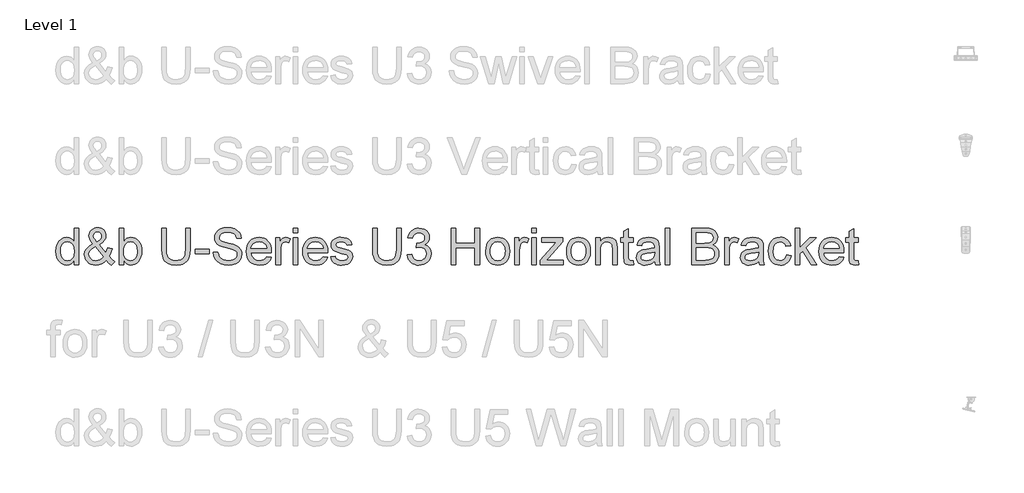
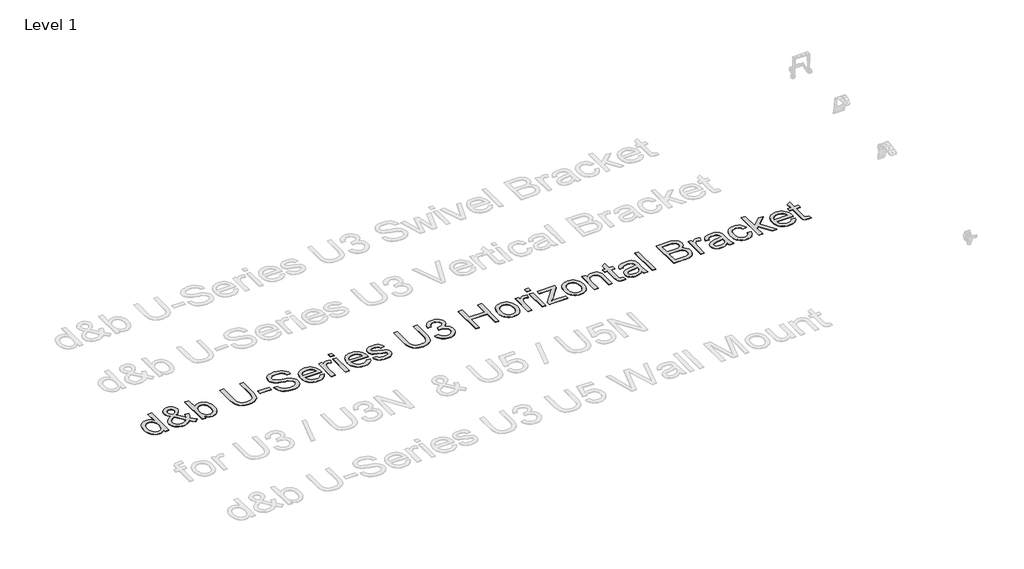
# One storey, part 14 of 29: 1 proxy.
"""IFC4 building model written with IfcOpenShell, lengths in millimetres."""

from ifc_helpers import new_model, si_unit, origin, origin_with_axes, place, context, project, spatial, polyline, outline, extrude, element, save

model = new_model("IFC4")

# Units and contexts
model_context = context("Model", 3, world=origin())
ifc_project = project(units=[si_unit("LENGTHUNIT", "METRE", prefix="MILLI")], contexts=[model_context])

# Site, building, storey
site = spatial("IfcSite", under=ifc_project)
building = spatial("IfcBuilding", under=site)
storey = spatial("IfcBuildingStorey", under=building, Name="Level 1", Elevation=0.0)

# Proxy
placement = place(None, origin())
element("IfcBuildingElementProxy", 1, Name="400mm Arial", ObjectType="400mm Arial", at=placement, inside=storey, context=model_context, shape_type="SweptSolid", body=[
    extrude(outline(polyline([(-20788.4119982, 2164.3636615), (-20788.4119982, 2211.7468625), (-20803.4399777, 2188.2698598), (-20821.6440051, 2171.5005722), (-20843.0240804, 2161.4389996), (-20867.5802036, 2158.0851421), (-20900.051921, 2162.9411844), (-20929.7767862, 2177.5093115), (-20954.9399147, 2200.7717163), (-20973.7264219, 2231.7105921), (-20985.4250694, 2269.0751401), (-20989.3246185, 2311.6145614), (-20985.7316377, 2353.6266853), (-20974.9526952, 2391.5675817), (-20957.0000539, 2423.2790097), (-20931.8859763, 2446.6027282), (-20901.5111863, 2460.950126), (-20867.7764073, 2465.7325919), (-20843.20189, 2462.3112894), (-20821.4723268, 2452.0473817), (-20803.0537016, 2436.3142951), (-20788.4119982, 2416.4854555), (-20788.4119982, 2566.1889021), (-20738.1838431, 2566.1889021), (-20738.1838431, 2164.3636615), (-20788.4119982, 2164.3636615)]), holes=[polyline([(-20939.0964634, 2311.8107652), (-20937.6801177, 2287.4539114), (-20933.4310807, 2266.3773388), (-20926.3493523, 2248.5810472), (-20916.4349325, 2234.0650368), (-20891.7377879, 2214.7512321), (-20877.8625053, 2209.9227809), (-20862.9694159, 2208.3132972), (-20848.0058157, 2209.8492045), (-20834.2133066, 2214.4569265), (-20810.1415614, 2232.8878145), (-20800.6348775, 2246.7968196), (-20793.844389, 2263.9493176), (-20788.4119982, 2307.9847924), (-20793.9424909, 2356.1282828), (-20800.8556067, 2374.663404), (-20810.5339688, 2389.5074425), (-20822.235682, 2400.8811276), (-20835.2188507, 2409.0051883), (-20849.4834751, 2413.8796247), (-20865.0295551, 2415.5044369), (-20880.2169501, 2413.9440041), (-20894.0922327, 2409.2627057), (-20906.6554028, 2401.4605417), (-20917.9064605, 2390.5375121), (-20927.1770868, 2376.2544937), (-20933.7989627, 2358.372363), (-20939.0964634, 2311.8107652)])]), origin_with_axes(), (0.0, 0.0, 1.0), 5.0),
    extrude(outline(polyline([(-20432.4003287, 2214.0032054), (-20457.9313392, 2189.5390527), (-20485.6696416, 2172.0646579), (-20515.664287, 2161.5800211), (-20547.9643262, 2158.0851421), (-20577.2722584, 2160.6725788), (-20603.3918801, 2168.4348889), (-20626.3231911, 2181.3720724), (-20646.0661915, 2199.4841293), (-20658.8991418, 2216.8542908), (-20668.0655348, 2235.2177338), (-20673.5653707, 2254.5744581), (-20675.3986493, 2274.9244638), (-20669.5002746, 2310.118508), (-20651.8051507, 2341.7318341), (-20622.3868538, 2369.7399167), (-20581.3189604, 2394.1182302), (-20603.2324646, 2422.4696693), (-20616.3903773, 2444.9349965), (-20622.975465, 2464.1139112), (-20625.1704942, 2482.6061128), (-20623.4414488, 2500.1602153), (-20618.2543127, 2516.5248327), (-20609.6090858, 2531.699965), (-20597.5057682, 2545.6856122), (-20582.784357, 2557.4026538), (-20566.2848495, 2565.7719692), (-20548.0072457, 2570.7935584), (-20527.9515456, 2572.4674215), (-20508.8032878, 2570.8671348), (-20491.4821772, 2566.0662748), (-20475.9882138, 2558.0648414), (-20462.3213977, 2546.8628346), (-20451.1623105, 2533.4167477), (-20443.1915339, 2518.6830738), (-20438.409068, 2502.6618129), (-20436.8149127, 2485.352965), (-20441.5360649, 2457.3694079), (-20455.6995218, 2431.4950409), (-20479.3052831, 2407.729864), (-20512.353349, 2386.0738773), (-20439.6598668, 2295.5258555), (-20427.2745063, 2321.4002225), (-20417.9793545, 2351.1496132), (-20367.7511994, 2340.2603061), (-20383.2022432, 2293.7354965), (-20403.2640747, 2257.5604336), (-20374.7164319, 2224.2548503), (-20342.6371219, 2196.7372771), (-20380.3082382, 2158.0851421), (-20405.9373505, 2181.5314879), (-20432.4003287, 2214.0032054)]), holes=[polyline([(-20537.7617322, 2417.7607798), (-20511.4949577, 2434.4258341), (-20496.4608468, 2448.908122), (-20489.3975125, 2462.9980024), (-20487.0430678, 2478.4858344), (-20490.1455392, 2496.0338056), (-20499.4529537, 2510.0255842), (-20513.4202068, 2519.1858458), (-20530.5021941, 2522.2392664), (-20547.9520634, 2519.2103713), (-20562.2381476, 2510.123686), (-20571.7662912, 2496.6714677), (-20574.9423391, 2480.5459736), (-20570.6258571, 2462.1518739), (-20557.578309, 2441.6976349), (-20537.7617322, 2417.7607798)]), polyline([(-20466.0492686, 2250.2027937), (-20555.7143735, 2362.1370221), (-20589.9641873, 2340.2848316), (-20610.8966728, 2320.0513218), (-20621.6020389, 2300.7252544), (-20625.1704942, 2281.5953906), (-20620.2899264, 2257.9037901), (-20605.648223, 2233.3292729), (-20594.8692805, 2222.3847835), (-20582.0547244, 2214.5672911), (-20567.2045545, 2209.8767957), (-20550.3187709, 2208.3132972), (-20527.5959264, 2211.2318277), (-20504.1618433, 2219.9874192), (-20482.7388484, 2233.3783238), (-20466.0492686, 2250.2027937)])]), origin_with_axes(), (0.0, 0.0, 1.0), 5.0),
    extrude(outline(polyline([(-20242.1808118, 2164.3636615), (-20292.4089668, 2164.3636615), (-20292.4089668, 2566.1889021), (-20242.1808118, 2566.1889021), (-20242.1808118, 2417.1721686), (-20225.6629102, 2438.4173538), (-20207.011293, 2453.5924861), (-20186.2259603, 2462.6975655), (-20163.306912, 2465.7325919), (-20137.432545, 2462.9980024), (-20112.9806551, 2454.7942339), (-20091.3491937, 2441.6363213), (-20073.9361126, 2424.0392992), (-20060.2876906, 2402.1748459), (-20049.9502065, 2376.2146398), (-20043.4386952, 2347.2378013), (-20041.2681915, 2316.323451), (-20043.5153373, 2280.6511602), (-20050.2567749, 2249.270826), (-20061.4925041, 2222.1824484), (-20077.2225251, 2199.3860274), (-20096.1040685, 2181.3168901), (-20116.7943651, 2168.4103634), (-20139.2934148, 2160.6664474), (-20163.6012176, 2158.0851421), (-20187.274424, 2161.4144742), (-20208.2620918, 2171.4024703), (-20226.5642211, 2188.0491306), (-20242.1808118, 2211.354455), (-20242.1808118, 2164.3636615)]), holes=[polyline([(-20242.1808118, 2313.9690062), (-20238.7472465, 2272.0795097), (-20228.4465506, 2243.7280706), (-20216.2757879, 2228.2341072), (-20202.1307252, 2217.1669905), (-20186.0113625, 2210.5267205), (-20167.9176997, 2208.3132972), (-20152.8958515, 2209.9442407), (-20138.9285984, 2214.8370712), (-20126.0159404, 2222.9917888), (-20114.1578774, 2234.4083934), (-20104.2434577, 2249.0562281), (-20097.1617293, 2266.9046363), (-20092.9126922, 2287.9536178), (-20091.4963465, 2312.2031726), (-20096.9287373, 2358.1638965), (-20103.7192258, 2375.9571224), (-20113.2259097, 2390.2922575), (-20124.6578427, 2401.322586), (-20137.2240785, 2409.201392), (-20150.9246172, 2413.9286757), (-20165.7594586, 2415.5044369), (-20180.7813068, 2413.8734934), (-20194.7485599, 2408.9806628), (-20207.6612179, 2400.8259453), (-20219.5192809, 2389.4093407), (-20229.4337006, 2374.9086587), (-20236.515429, 2357.501709), (-20240.7644661, 2337.1884915), (-20242.1808118, 2313.9690062)])]), origin_with_axes(), (0.0, 0.0, 1.0), 5.0),
    extrude(outline(polyline([(-19557.8221989, 2566.1889021), (-19507.5940438, 2566.1889021), (-19507.5940438, 2334.3741942), (-19511.0030836, 2280.0870744), (-19521.2302031, 2238.2834171), (-19529.4155775, 2221.3301884), (-19540.3355414, 2206.0324288), (-19570.3792376, 2180.4033165), (-19589.5213641, 2170.6391152), (-19611.4348683, 2163.6646857), (-19663.5760097, 2158.0851421), (-19714.576717, 2162.9411844), (-19755.3503048, 2177.5093115), (-19771.9049946, 2188.3097137), (-19785.9090359, 2201.2867511), (-19797.3624287, 2216.4404236), (-19806.2651729, 2233.7707312), (-19817.706303, 2277.3402222), (-19821.520013, 2334.3741942), (-19821.520013, 2566.1889021), (-19771.2918579, 2566.1889021), (-19771.2918579, 2336.1400278), (-19768.8147858, 2291.000907), (-19761.3835695, 2259.5715218), (-19747.9190885, 2237.8051705), (-19727.3422222, 2221.6551509), (-19700.5113621, 2211.6487606), (-19668.2848993, 2208.3132972), (-19640.6017791, 2209.9626348), (-19617.1983529, 2214.9106476), (-19598.0746205, 2223.1573357), (-19583.230582, 2234.702699), (-19572.1144144, 2250.9385577), (-19564.1742947, 2273.2567321), (-19559.4102228, 2301.6572221), (-19557.8221989, 2336.1400278), (-19557.8221989, 2566.1889021)])), origin_with_axes(), (0.0, 0.0, 1.0), 5.0),
    extrude(outline(polyline([(-19451.0873693, 2283.6555298), (-19451.0873693, 2333.8836849), (-19294.1243847, 2333.8836849), (-19294.1243847, 2283.6555298), (-19451.0873693, 2283.6555298)])), origin_with_axes(), (0.0, 0.0, 1.0), 5.0),
    extrude(outline(polyline([(-19250.174749, 2302.4910879), (-19199.946594, 2302.4910879), (-19194.1831094, 2274.6178954), (-19183.7597862, 2252.2138819), (-19167.499402, 2234.4329188), (-19144.2247344, 2220.4288776), (-19115.7751935, 2211.3421923), (-19083.9901891, 2208.3132972), (-19056.006632, 2210.6064283), (-19031.5056911, 2217.4858216), (-19011.6523261, 2228.3751287), (-18997.6114966, 2242.698001), (-18989.2605753, 2259.1423262), (-18986.4769349, 2276.3959918), (-18988.5615995, 2293.2081989), (-18994.8155934, 2307.7395377), (-19007.519785, 2320.137161), (-19028.9550426, 2330.5482214), (-19102.0899832, 2349.7271361), (-19150.0985836, 2362.419065), (-19180.8167302, 2374.4978571), (-19205.8204431, 2391.3959034), (-19223.5400926, 2411.8746678), (-19234.0983058, 2435.4926919), (-19237.6177103, 2461.8085173), (-19233.26444, 2491.2268142), (-19220.2046292, 2518.6585483), (-19198.7816343, 2541.9086904), (-19169.338812, 2558.7822113), (-19133.997615, 2569.0461189), (-19094.8794961, 2572.4674215), (-19052.4994903, 2568.8867034), (-19015.4169852, 2558.1445491), (-18984.956356, 2540.4616879), (-18962.4419779, 2516.0588489), (-18948.1926819, 2486.456611), (-18942.5272992, 2453.1755532), (-18992.7554543, 2453.1755532), (-19001.9770296, 2483.145673), (-19010.3402136, 2495.003736), (-19021.2049952, 2504.7771344), (-19051.2486915, 2517.8737334), (-19092.9174588, 2522.2392664), (-19135.5672448, 2517.9227843), (-19151.8705486, 2512.5271817), (-19164.8261262, 2504.9733381), (-19181.7486979, 2485.9170507), (-19187.3895552, 2463.2800453), (-19183.3919042, 2443.9785033), (-19171.3989511, 2428.4538831), (-19143.047512, 2414.5724691), (-19089.3857917, 2400.3967496), (-19034.0072887, 2386.9322686), (-19000.5055016, 2375.1845702), (-18971.8720197, 2356.9621487), (-18951.8960273, 2334.4722961), (-18940.1605917, 2307.9602669), (-18936.2487798, 2277.671316), (-18940.7492029, 2246.7079147), (-18954.2504721, 2217.5839235), (-18976.2007645, 2192.5188969), (-19006.048257, 2173.7323896), (-19041.941277, 2161.996954), (-19082.0281518, 2158.0851421), (-19131.2385, 2162.3035223), (-19171.7423077, 2174.958663), (-19204.0055586, 2196.0996149), (-19228.4942368, 2225.7754292), (-19244.2150607, 2261.9259666), (-19250.174749, 2302.4910879)])), origin_with_axes(), (0.0, 0.0, 1.0), 5.0),
    extrude(outline(polyline([(-18660.5825381, 2252.2629329), (-18611.3354017, 2245.9844135), (-18618.8861796, 2226.2598072), (-18629.0795766, 2208.8773829), (-18641.9155925, 2193.8371407), (-18657.3942275, 2181.1390805), (-18675.3560659, 2171.0529824), (-18695.6416922, 2163.8486267), (-18743.1843087, 2158.0851421), (-18774.3500451, 2160.5714113), (-18802.1190044, 2168.0302187), (-18826.4911866, 2180.4615645), (-18847.4665916, 2197.8654485), (-18864.3339811, 2219.7574929), (-18876.3821165, 2245.6533197), (-18883.6109977, 2275.5529288), (-18886.0206247, 2309.4563204), (-18883.5864722, 2344.5093432), (-18876.2840146, 2375.4052994), (-18864.1132519, 2402.1441891), (-18847.0741842, 2424.7260122), (-18826.1539614, 2442.6663908), (-18802.3397336, 2455.480947), (-18775.6315007, 2463.1696807), (-18746.0292628, 2465.7325919), (-18717.3804525, 2463.1758121), (-18691.472363, 2455.5054725), (-18668.3049943, 2442.7215731), (-18647.8783465, 2424.8241141), (-18631.2040951, 2402.2913419), (-18619.2939155, 2375.6015031), (-18612.1478077, 2344.7545978), (-18609.7657718, 2309.750626), (-18610.0600774, 2296.2125686), (-18835.7924697, 2296.2125686), (-18832.8831362, 2276.1691312), (-18827.0981918, 2258.6150287), (-18818.4376365, 2243.550261), (-18806.9014703, 2230.9748281), (-18793.1273553, 2221.0604083), (-18777.7529536, 2213.9786799), (-18742.2032901, 2208.3132972), (-18715.4705318, 2210.9375221), (-18692.9561537, 2218.8101968), (-18674.6601558, 2232.4218306), (-18660.5825381, 2252.2629329)]), holes=[polyline([(-18835.7924697, 2346.4407236), (-18659.9939269, 2346.4407236), (-18666.7874811, 2372.9772782), (-18680.1048093, 2391.9599892), (-18693.8022823, 2402.260685), (-18709.3882161, 2409.6183249), (-18726.8626109, 2414.0329089), (-18746.2254666, 2415.5044369), (-18780.0828729, 2410.8078101), (-18808.0786927, 2396.7179296), (-18827.5396502, 2374.7553745), (-18835.7924697, 2346.4407236)])]), origin_with_axes(), (0.0, 0.0, 1.0), 5.0),
    extrude(outline(polyline([(-18559.5376168, 2164.3636615), (-18559.5376168, 2459.4540726), (-18515.5879811, 2459.4540726), (-18515.5879811, 2415.7987425), (-18499.3521223, 2441.1090237), (-18484.3915879, 2456.0205073), (-18469.3820025, 2463.3045708), (-18452.998991, 2465.7325919), (-18427.9830153, 2461.8575683), (-18402.5746321, 2450.2324972), (-18419.3500511, 2405.203741), (-18437.0083869, 2412.9292629), (-18454.6667227, 2415.5044369), (-18469.6640453, 2413.0273648), (-18483.0672127, 2405.5961485), (-18493.8952061, 2393.7748737), (-18501.1670069, 2378.1276262), (-18507.273848, 2350.0704927), (-18509.3094617, 2319.4627107), (-18509.3094617, 2164.3636615), (-18559.5376168, 2164.3636615)])), origin_with_axes(), (0.0, 0.0, 1.0), 5.0),
    extrude(outline(polyline([(-18371.1820352, 2515.960747), (-18371.1820352, 2566.1889021), (-18320.9538802, 2566.1889021), (-18320.9538802, 2515.960747), (-18371.1820352, 2515.960747)])), origin_with_axes(), (0.0, 0.0, 1.0), 5.0),
    extrude(outline(polyline([(-18371.1820352, 2164.3636615), (-18371.1820352, 2459.4540726), (-18320.9538802, 2459.4540726), (-18320.9538802, 2164.3636615), (-18371.1820352, 2164.3636615)])), origin_with_axes(), (0.0, 0.0, 1.0), 5.0),
    extrude(outline(polyline([(-18039.009119, 2252.2629329), (-17989.7619826, 2245.9844135), (-17997.3127606, 2226.2598072), (-18007.5061575, 2208.8773829), (-18020.3421735, 2193.8371407), (-18035.8208084, 2181.1390805), (-18053.7826468, 2171.0529824), (-18074.0682732, 2163.8486267), (-18121.6108897, 2158.0851421), (-18152.7766261, 2160.5714113), (-18180.5455853, 2168.0302187), (-18204.9177675, 2180.4615645), (-18225.8931726, 2197.8654485), (-18242.7605621, 2219.7574929), (-18254.8086974, 2245.6533197), (-18262.0375786, 2275.5529288), (-18264.4472057, 2309.4563204), (-18262.0130532, 2344.5093432), (-18254.7105956, 2375.4052994), (-18242.5398329, 2402.1441891), (-18225.5007651, 2424.7260122), (-18204.5805423, 2442.6663908), (-18180.7663145, 2455.480947), (-18154.0580817, 2463.1696807), (-18124.4558438, 2465.7325919), (-18095.8070334, 2463.1758121), (-18069.8989439, 2455.5054725), (-18046.7315753, 2442.7215731), (-18026.3049275, 2424.8241141), (-18009.630676, 2402.2913419), (-17997.7204965, 2375.6015031), (-17990.5743887, 2344.7545978), (-17988.1923528, 2309.750626), (-17988.4866584, 2296.2125686), (-18214.2190506, 2296.2125686), (-18211.3097172, 2276.1691312), (-18205.5247728, 2258.6150287), (-18196.8642175, 2243.550261), (-18185.3280513, 2230.9748281), (-18171.5539362, 2221.0604083), (-18156.1795345, 2213.9786799), (-18120.629871, 2208.3132972), (-18093.8971127, 2210.9375221), (-18071.3827346, 2218.8101968), (-18053.0867367, 2232.4218306), (-18039.009119, 2252.2629329)]), holes=[polyline([(-18214.2190506, 2346.4407236), (-18038.4205079, 2346.4407236), (-18045.214062, 2372.9772782), (-18058.5313903, 2391.9599892), (-18072.2288632, 2402.260685), (-18087.8147971, 2409.6183249), (-18105.2891918, 2414.0329089), (-18124.6520475, 2415.5044369), (-18158.5094538, 2410.8078101), (-18186.5052736, 2396.7179296), (-18205.9662312, 2374.7553745), (-18214.2190506, 2346.4407236)])]), origin_with_axes(), (0.0, 0.0, 1.0), 5.0),
    extrude(outline(polyline([(-17956.7997559, 2252.2629329), (-17906.5716008, 2258.5414523), (-17898.6498752, 2237.0571437), (-17883.3214587, 2221.2627434), (-17860.4882495, 2211.5506587), (-17830.0521458, 2208.3132972), (-17799.983924, 2211.2808786), (-17778.8429721, 2220.1836229), (-17766.3349842, 2233.0840182), (-17762.1656549, 2248.0445527), (-17766.3595097, 2260.8468461), (-17778.9410739, 2270.6079817), (-17830.640757, 2284.930854), (-17906.2772952, 2309.5053713), (-17925.4194217, 2321.8539436), (-17939.2885729, 2338.2001669), (-17947.7130706, 2357.501709), (-17950.5212365, 2378.7162373), (-17948.2648936, 2398.1771949), (-17941.4958649, 2416.142099), (-17930.827287, 2431.8997111), (-17916.8722966, 2444.7387927), (-17884.9401395, 2459.6012254), (-17864.0567049, 2464.1997503), (-17841.7262678, 2465.7325919), (-17809.0338211, 2463.2677826), (-17780.6088056, 2455.8733545), (-17757.751071, 2444.2728089), (-17741.7604669, 2429.1896471), (-17731.1654655, 2409.5079603), (-17724.4945386, 2384.1118399), (-17774.7226937, 2377.8333206), (-17781.0625268, 2393.6399836), (-17793.6073028, 2405.5470975), (-17812.4796492, 2413.015102), (-17837.8021932, 2415.5044369), (-17866.6441416, 2413.1254666), (-17885.8721072, 2405.9885559), (-17896.6878378, 2395.6878601), (-17900.2930814, 2383.8175343), (-17894.3088676, 2369.2003564), (-17875.5714113, 2358.1148456), (-17832.3084887, 2347.4217423), (-17758.5849369, 2323.7791927), (-17739.1117166, 2312.4729527), (-17724.3473858, 2296.9973835), (-17715.0399714, 2277.303434), (-17711.9374999, 2253.3420534), (-17715.5795316, 2228.5713324), (-17726.5056269, 2205.2721394), (-17744.2988527, 2185.2716215), (-17768.5422762, 2170.3969262), (-17797.825683, 2161.1630881), (-17830.7388588, 2158.0851421), (-17857.7720541, 2159.5689328), (-17881.3839468, 2164.020305), (-17901.574537, 2171.4392585), (-17918.3438246, 2181.8257935), (-17932.0412976, 2195.130859), (-17943.0164438, 2211.3054041), (-17951.2692632, 2230.3494287), (-17956.7997559, 2252.2629329)])), origin_with_axes(), (0.0, 0.0, 1.0), 5.0),
    extrude(outline(polyline([(-17228.4915073, 2566.1889021), (-17178.2633522, 2566.1889021), (-17178.2633522, 2334.3741942), (-17181.672392, 2280.0870744), (-17191.8995115, 2238.2834171), (-17200.0848859, 2221.3301884), (-17211.0048498, 2206.0324288), (-17241.048546, 2180.4033165), (-17260.1906725, 2170.6391152), (-17282.1041767, 2163.6646857), (-17334.2453182, 2158.0851421), (-17385.2460254, 2162.9411844), (-17426.0196132, 2177.5093115), (-17442.574303, 2188.3097137), (-17456.5783443, 2201.2867511), (-17468.0317371, 2216.4404236), (-17476.9344814, 2233.7707312), (-17488.3756114, 2277.3402222), (-17492.1893214, 2334.3741942), (-17492.1893214, 2566.1889021), (-17441.9611663, 2566.1889021), (-17441.9611663, 2336.1400278), (-17439.4840942, 2291.000907), (-17432.0528779, 2259.5715218), (-17418.5883969, 2237.8051705), (-17398.0115307, 2221.6551509), (-17371.1806705, 2211.6487606), (-17338.9542077, 2208.3132972), (-17311.2710876, 2209.9626348), (-17287.8676613, 2214.9106476), (-17268.7439289, 2223.1573357), (-17253.8998904, 2234.702699), (-17242.7837228, 2250.9385577), (-17234.8436031, 2273.2567321), (-17230.0795312, 2301.6572221), (-17228.4915073, 2336.1400278), (-17228.4915073, 2566.1889021)])), origin_with_axes(), (0.0, 0.0, 1.0), 5.0),
    extrude(outline(polyline([(-17109.199639, 2271.098491), (-17058.9714839, 2277.3770104), (-17047.7265576, 2245.8127352), (-17031.2577069, 2224.500105), (-17008.7555916, 2212.3599991), (-16979.4108711, 2208.3132972), (-16944.9771163, 2213.880578), (-16930.7032949, 2220.8396791), (-16918.3915108, 2230.5824206), (-16901.3953626, 2255.5002944), (-16895.7299799, 2285.715669), (-16901.3463117, 2314.3982019), (-16918.1953071, 2337.6606067), (-16943.7017921, 2353.0748623), (-16975.2905927, 2358.2129475), (-17010.5091624, 2352.719243), (-17004.9173561, 2402.9473981), (-16996.8730031, 2402.3587869), (-16966.7802559, 2405.9640305), (-16939.8758193, 2416.7797611), (-16928.8025713, 2424.9590041), (-16920.8931084, 2435.075759), (-16916.1474306, 2447.1300257), (-16914.5655381, 2461.1218043), (-16919.1518003, 2482.8145792), (-16932.9105869, 2500.4116014), (-16953.9043861, 2512.0734606), (-16980.195686, 2515.960747), (-17006.5360369, 2512.0366724), (-17028.0693963, 2500.2644486), (-17043.7902202, 2480.6440755), (-17052.6929645, 2453.1755532), (-17102.9211196, 2459.4540726), (-17096.9675626, 2483.4338473), (-17088.1322634, 2504.5564052), (-17076.4152218, 2522.8217462), (-17061.816438, 2538.2298705), (-17044.7957643, 2550.4619468), (-17025.8130534, 2559.1991442), (-17004.8683051, 2564.4414626), (-16981.9615196, 2566.1889021), (-16950.3849817, 2562.7430741), (-16921.3836177, 2552.40559), (-16896.9317278, 2536.0961549), (-16879.0036119, 2514.7344737), (-16868.0039402, 2490.1231682), (-16864.337383, 2464.0648602), (-16867.8199992, 2439.7846485), (-16878.2678479, 2417.7607798), (-16895.5337762, 2398.998798), (-16919.4706313, 2384.5042474), (-16888.0289835, 2371.8000558), (-16864.7297904, 2350.1685945), (-16850.3088162, 2320.7870858), (-16845.5018248, 2284.8327522), (-16847.9053205, 2259.3507926), (-16855.1158076, 2235.8799214), (-16867.1332861, 2214.4201383), (-16883.9577561, 2194.9714435), (-16904.4549146, 2178.8336866), (-16927.4904588, 2167.3067175), (-16953.0643889, 2160.3905359), (-16981.1767046, 2158.0851421), (-17006.5850878, 2160.0533108), (-17029.737128, 2165.9578168), (-17050.6328253, 2175.7986602), (-17069.2721798, 2189.5758409), (-17084.9010332, 2206.4800186), (-17096.7652275, 2225.7018528), (-17104.8647628, 2247.2413436), (-17109.199639, 2271.098491)])), origin_with_axes(), (0.0, 0.0, 1.0), 5.0),
    extrude(outline(polyline([(-16625.7536464, 2164.3636615), (-16625.7536464, 2566.1889021), (-16575.5254913, 2566.1889021), (-16575.5254913, 2402.9473981), (-16362.0558322, 2402.9473981), (-16362.0558322, 2566.1889021), (-16311.8276772, 2566.1889021), (-16311.8276772, 2164.3636615), (-16362.0558322, 2164.3636615), (-16362.0558322, 2352.719243), (-16575.5254913, 2352.719243), (-16575.5254913, 2164.3636615), (-16625.7536464, 2164.3636615)])), origin_with_axes(), (0.0, 0.0, 1.0), 5.0),
    extrude(outline(polyline([(-16242.7639639, 2311.908867), (-16240.0477685, 2350.125675), (-16231.8991823, 2383.0572449), (-16218.3182054, 2410.7035768), (-16199.3048376, 2433.0646708), (-16180.1627111, 2447.3568863), (-16159.0340218, 2457.5656116), (-16135.9187698, 2463.6908469), (-16110.816955, 2465.7325919), (-16083.1062437, 2463.2463228), (-16058.0504142, 2455.7875153), (-16035.6494663, 2443.3561696), (-16015.9034002, 2425.9522855), (-15999.7871032, 2404.1644744), (-15988.2754624, 2378.5813473), (-15981.3684779, 2349.2029043), (-15979.0661498, 2316.0291454), (-15983.1373772, 2265.2859555), (-15995.3510594, 2226.658346), (-16015.3515772, 2197.7305585), (-16042.7833114, 2176.0868344), (-16075.3653934, 2162.5855652), (-16110.816955, 2158.0851421), (-16138.9323365, 2160.5622142), (-16164.221158, 2167.9934305), (-16186.6834194, 2180.378791), (-16206.3191209, 2197.7182957), (-16222.2637397, 2219.717639), (-16233.6527532, 2246.0825154), (-16240.4861612, 2276.8129247), (-16242.7639639, 2311.908867)]), holes=[polyline([(-16192.5358089, 2312.0069689), (-16191.082675, 2287.6439838), (-16186.7232733, 2266.549017), (-16179.4576039, 2248.7220687), (-16169.2856668, 2234.1631387), (-16156.912569, 2222.853833), (-16143.0434178, 2214.7757576), (-16127.6782131, 2209.9289123), (-16110.816955, 2208.3132972), (-16094.041536, 2209.9381093), (-16078.737645, 2214.8125458), (-16064.905282, 2222.9366065), (-16052.544447, 2234.3102915), (-16042.3725098, 2249.0133086), (-16035.1068404, 2267.1253655), (-16030.7474387, 2288.6464622), (-16029.2943049, 2313.5765987), (-16030.7566358, 2337.1670317), (-16035.1436286, 2357.7101754), (-16042.4552832, 2375.20603), (-16052.6915998, 2389.6545953), (-16065.09842, 2400.963901), (-16078.921586, 2409.0419765), (-16094.1610977, 2413.8888218), (-16110.816955, 2415.5044369), (-16127.6782131, 2413.8949531), (-16143.0434178, 2409.0665019), (-16156.912569, 2401.0190833), (-16169.2856668, 2389.7526972), (-16179.4576039, 2375.2366868), (-16186.7232733, 2357.4403953), (-16191.082675, 2336.3638227), (-16192.5358089, 2312.0069689)])]), origin_with_axes(), (0.0, 0.0, 1.0), 5.0),
    extrude(outline(polyline([(-15922.5594753, 2164.3636615), (-15922.5594753, 2459.4540726), (-15878.6098396, 2459.4540726), (-15878.6098396, 2415.7987425), (-15862.3739809, 2441.1090237), (-15847.4134464, 2456.0205073), (-15832.403861, 2463.3045708), (-15816.0208495, 2465.7325919), (-15791.0048739, 2461.8575683), (-15765.5964907, 2450.2324972), (-15782.3719097, 2405.203741), (-15800.0302455, 2412.9292629), (-15817.6885812, 2415.5044369), (-15832.6859039, 2413.0273648), (-15846.0890713, 2405.5961485), (-15856.9170647, 2393.7748737), (-15864.1888654, 2378.1276262), (-15870.2957065, 2350.0704927), (-15872.3313203, 2319.4627107), (-15872.3313203, 2164.3636615), (-15922.5594753, 2164.3636615)])), origin_with_axes(), (0.0, 0.0, 1.0), 5.0),
    extrude(outline(polyline([(-15734.2038938, 2164.3636615), (-15734.2038938, 2459.4540726), (-15683.9757387, 2459.4540726), (-15683.9757387, 2164.3636615), (-15734.2038938, 2164.3636615)])), origin_with_axes(), (0.0, 0.0, 1.0), 5.0),
    extrude(outline(polyline([(-15734.2038938, 2515.960747), (-15734.2038938, 2566.1889021), (-15683.9757387, 2566.1889021), (-15683.9757387, 2515.960747), (-15734.2038938, 2515.960747)])), origin_with_axes(), (0.0, 0.0, 1.0), 5.0),
    extrude(outline(polyline([(-15640.026103, 2164.3636615), (-15640.026103, 2211.6487606), (-15466.6801069, 2409.2259175), (-15517.9873825, 2409.2259175), (-15627.4690643, 2409.2259175), (-15627.4690643, 2459.4540726), (-15395.163847, 2459.4540726), (-15395.163847, 2416.7797611), (-15548.8894701, 2241.4717277), (-15572.4339178, 2214.5918166), (-15514.3576135, 2214.5918166), (-15388.8853277, 2214.5918166), (-15388.8853277, 2164.3636615), (-15640.026103, 2164.3636615)])), origin_with_axes(), (0.0, 0.0, 1.0), 5.0),
    extrude(outline(polyline([(-15351.2142114, 2311.908867), (-15348.498016, 2350.125675), (-15340.3494298, 2383.0572449), (-15326.7684528, 2410.7035768), (-15307.755085, 2433.0646708), (-15288.6129585, 2447.3568863), (-15267.4842693, 2457.5656116), (-15244.3690172, 2463.6908469), (-15219.2672024, 2465.7325919), (-15191.5564911, 2463.2463228), (-15166.5006616, 2455.7875153), (-15144.0997138, 2443.3561696), (-15124.3536477, 2425.9522855), (-15108.2373506, 2404.1644744), (-15096.7257098, 2378.5813473), (-15089.8187254, 2349.2029043), (-15087.5163972, 2316.0291454), (-15091.5876246, 2265.2859555), (-15103.8013069, 2226.658346), (-15123.8018247, 2197.7305585), (-15151.2335588, 2176.0868344), (-15183.8156408, 2162.5855652), (-15219.2672024, 2158.0851421), (-15247.3825839, 2160.5622142), (-15272.6714054, 2167.9934305), (-15295.1336669, 2180.378791), (-15314.7693684, 2197.7182957), (-15330.7139872, 2219.717639), (-15342.1030006, 2246.0825154), (-15348.9364087, 2276.8129247), (-15351.2142114, 2311.908867)]), holes=[polyline([(-15300.9860563, 2312.0069689), (-15299.5329224, 2287.6439838), (-15295.1735208, 2266.549017), (-15287.9078513, 2248.7220687), (-15277.7359142, 2234.1631387), (-15265.3628164, 2222.853833), (-15251.4936652, 2214.7757576), (-15236.1284605, 2209.9289123), (-15219.2672024, 2208.3132972), (-15202.4917834, 2209.9381093), (-15187.1878924, 2214.8125458), (-15173.3555294, 2222.9366065), (-15160.9946944, 2234.3102915), (-15150.8227572, 2249.0133086), (-15143.5570878, 2267.1253655), (-15139.1976862, 2288.6464622), (-15137.7445523, 2313.5765987), (-15139.2068832, 2337.1670317), (-15143.593876, 2357.7101754), (-15150.9055307, 2375.20603), (-15161.1418472, 2389.6545953), (-15173.5486675, 2400.963901), (-15187.3718334, 2409.0419765), (-15202.6113451, 2413.8888218), (-15219.2672024, 2415.5044369), (-15236.1284605, 2413.8949531), (-15251.4936652, 2409.0665019), (-15265.3628164, 2401.0190833), (-15277.7359142, 2389.7526972), (-15287.9078513, 2375.2366868), (-15295.1735208, 2357.4403953), (-15299.5329224, 2336.3638227), (-15300.9860563, 2312.0069689)])]), origin_with_axes(), (0.0, 0.0, 1.0), 5.0),
    extrude(outline(polyline([(-15031.0097228, 2164.3636615), (-15031.0097228, 2459.4540726), (-14980.7815677, 2459.4540726), (-14980.7815677, 2418.2512891), (-14963.3316984, 2439.0243591), (-14942.3746874, 2453.8622662), (-14917.9105347, 2462.7650105), (-14889.9392403, 2465.7325919), (-14865.1807821, 2463.341359), (-14842.5069884, 2456.1676601), (-14823.5978539, 2445.1066747), (-14810.1333728, 2431.0535825), (-14800.9976366, 2414.0451716), (-14795.0747365, 2394.1182302), (-14792.4259861, 2345.5578068), (-14792.4259861, 2164.3636615), (-14842.6541412, 2164.3636615), (-14842.6541412, 2338.7887781), (-14844.1011437, 2364.761247), (-14848.4421513, 2383.2289232), (-14856.449716, 2396.4604122), (-14868.8963902, 2406.7243199), (-14884.8502061, 2413.3094076), (-14903.3791959, 2415.5044369), (-14932.7974928, 2410.5748181), (-14957.8747821, 2395.7859619), (-14967.8965008, 2383.7133011), (-14975.0548713, 2367.2137936), (-14979.3498936, 2346.2874395), (-14980.7815677, 2320.9342386), (-14980.7815677, 2164.3636615), (-15031.0097228, 2164.3636615)])), origin_with_axes(), (0.0, 0.0, 1.0), 5.0),
    extrude(outline(polyline([(-14616.6274434, 2206.253158), (-14610.348924, 2162.8921335), (-14647.9219384, 2158.0851421), (-14672.0304719, 2160.1698067), (-14690.0076387, 2166.4238007), (-14702.7118303, 2176.0623089), (-14711.0014379, 2188.3005166), (-14715.5631746, 2209.3188413), (-14717.0837535, 2245.2977004), (-14717.0837535, 2409.2259175), (-14754.7548698, 2409.2259175), (-14754.7548698, 2459.4540726), (-14717.0837535, 2459.4540726), (-14717.0837535, 2531.1665361), (-14666.8555985, 2560.6951976), (-14666.8555985, 2459.4540726), (-14616.6274434, 2459.4540726), (-14616.6274434, 2409.2259175), (-14666.8555985, 2409.2259175), (-14666.8555985, 2246.7692284), (-14664.2068481, 2220.8703359), (-14655.6229349, 2211.6978115), (-14638.5041594, 2208.3132972), (-14616.6274434, 2206.253158)])), origin_with_axes(), (0.0, 0.0, 1.0), 5.0),
    extrude(outline(polyline([(-14378.0437068, 2202.0347778), (-14402.0418756, 2181.4579115), (-14426.7512829, 2167.9934305), (-14452.7360145, 2160.5622142), (-14480.5601561, 2158.0851421), (-14502.9243157, 2159.5750642), (-14522.5354918, 2164.0448304), (-14539.3936842, 2171.4944408), (-14553.498893, 2181.9238954), (-14564.6365204, 2194.6710065), (-14572.5919686, 2209.0735866), (-14577.3652374, 2225.1316357), (-14578.9563271, 2242.8451538), (-14576.5528314, 2263.6672747), (-14569.3423443, 2282.5764093), (-14558.2200453, 2298.7632171), (-14544.0811139, 2311.4183577), (-14527.4651105, 2320.9832896), (-14508.9115952, 2327.8994711), (-14465.4524688, 2335.4533147), (-14414.0961423, 2343.3995658), (-14378.3380124, 2352.719243), (-14378.0437068, 2363.9028557), (-14381.5017975, 2386.3191319), (-14391.8760698, 2400.9853608), (-14415.077161, 2411.8746678), (-14447.4017256, 2415.5044369), (-14477.3227945, 2413.0886784), (-14498.2184919, 2405.8414031), (-14512.4677878, 2392.4382358), (-14522.4496526, 2371.5548012), (-14572.6778077, 2377.8333206), (-14563.9590044, 2405.3018429), (-14550.9482445, 2426.8842532), (-14532.4315174, 2443.3898921), (-14507.1948126, 2455.6280998), (-14476.3295132, 2463.2064689), (-14440.9270025, 2465.7325919), (-14406.9714943, 2463.5007745), (-14380.054795, 2456.8053222), (-14359.7599716, 2446.7376183), (-14345.6700912, 2434.389046), (-14336.3258885, 2419.1219432), (-14330.2680983, 2400.2986477), (-14327.8155517, 2356.349012), (-14327.8155517, 2293.8581238), (-14325.2649032, 2206.5965145), (-14315.2585129, 2164.3636615), (-14365.486668, 2164.3636615), (-14373.531021, 2181.8257935), (-14378.0437068, 2202.0347778)]), holes=[polyline([(-14378.0437068, 2302.4910879), (-14411.7907485, 2294.1279039), (-14459.0758476, 2287.0890951), (-14502.2897193, 2278.9466403), (-14513.5346456, 2273.3793594), (-14521.8610414, 2265.7028884), (-14527.0113894, 2256.5058385), (-14528.728172, 2246.3768209), (-14524.9880384, 2231.4408119), (-14513.7676375, 2219.2026042), (-14495.3122241, 2211.0356239), (-14469.8670528, 2208.3132972), (-14442.8890398, 2211.3176668), (-14419.0502865, 2220.3307757), (-14399.724219, 2233.6113157), (-14386.2842635, 2249.4179788), (-14380.3245751, 2265.7028884), (-14378.3380124, 2288.2663175), (-14378.0437068, 2302.4910879)])]), origin_with_axes(), (0.0, 0.0, 1.0), 5.0),
    extrude(outline(polyline([(-14258.7518385, 2164.3636615), (-14258.7518385, 2566.1889021), (-14208.5236834, 2566.1889021), (-14208.5236834, 2164.3636615), (-14258.7518385, 2164.3636615)])), origin_with_axes(), (0.0, 0.0, 1.0), 5.0),
    extrude(outline(polyline([(-13969.9399468, 2164.3636615), (-13969.9399468, 2566.1889021), (-13816.6067312, 2566.1889021), (-13774.4351918, 2563.2335834), (-13741.5097533, 2554.3676273), (-13716.2730484, 2539.3703046), (-13697.1677101, 2518.0208862), (-13685.1379689, 2492.9068086), (-13681.1280551, 2466.6155087), (-13684.5003067, 2442.4211362), (-13694.6170616, 2419.6737661), (-13711.5518961, 2399.7713502), (-13735.3783867, 2384.1118399), (-13706.916583, 2369.2494073), (-13685.8859956, 2346.6369274), (-13672.8997612, 2317.7704535), (-13668.5710163, 2284.1460391), (-13671.526335, 2256.1256938), (-13680.3922911, 2230.1409622), (-13693.6237802, 2208.0435171), (-13709.6756979, 2191.685031), (-13729.3328592, 2179.8392308), (-13753.380079, 2171.279843), (-13782.6021721, 2166.0927069), (-13817.7839536, 2164.3636615), (-13969.9399468, 2164.3636615)]), holes=[polyline([(-13919.7117917, 2214.5918166), (-13816.7048331, 2214.5918166), (-13779.4261242, 2216.5538539), (-13747.8863745, 2227.4922119), (-13736.3103544, 2236.9222537), (-13726.9906772, 2249.8103862), (-13720.8470479, 2265.5802611), (-13718.7991714, 2283.6555298), (-13721.2026671, 2304.649329), (-13728.4131542, 2322.7000722), (-13741.0069812, 2336.8144781), (-13759.5604965, 2345.9992652), (-13785.8395337, 2351.0392486), (-13821.6099263, 2352.719243), (-13919.7117917, 2352.719243), (-13919.7117917, 2214.5918166)]), polyline([(-13919.7117917, 2402.9473981), (-13827.9865476, 2402.9473981), (-13774.4229291, 2407.2638802), (-13755.6732101, 2414.7073592), (-13742.1964663, 2425.8541837), (-13734.0662742, 2440.5326753), (-13731.3562102, 2458.5711558), (-13733.8823332, 2476.0823387), (-13741.4607023, 2491.3371788), (-13753.747961, 2503.2442927), (-13770.4007526, 2510.7122972), (-13795.9562885, 2514.6486346), (-13834.95178, 2515.960747), (-13919.7117917, 2515.960747), (-13919.7117917, 2402.9473981)])]), origin_with_axes(), (0.0, 0.0, 1.0), 5.0),
    extrude(outline(polyline([(-13605.7858225, 2164.3636615), (-13605.7858225, 2459.4540726), (-13561.8361868, 2459.4540726), (-13561.8361868, 2415.7987425), (-13545.6003281, 2441.1090237), (-13530.6397936, 2456.0205073), (-13515.6302082, 2463.3045708), (-13499.2471967, 2465.7325919), (-13474.231221, 2461.8575683), (-13448.8228379, 2450.2324972), (-13465.5982569, 2405.203741), (-13483.2565926, 2412.9292629), (-13500.9149284, 2415.5044369), (-13515.9122511, 2413.0273648), (-13529.3154184, 2405.5961485), (-13540.1434118, 2393.7748737), (-13547.4152126, 2378.1276262), (-13553.5220537, 2350.0704927), (-13555.5576674, 2319.4627107), (-13555.5576674, 2164.3636615), (-13605.7858225, 2164.3636615)])), origin_with_axes(), (0.0, 0.0, 1.0), 5.0),
    extrude(outline(polyline([(-13229.0746594, 2202.0347778), (-13253.0728283, 2181.4579115), (-13277.7822356, 2167.9934305), (-13303.7669672, 2160.5622142), (-13331.5911088, 2158.0851421), (-13353.9552684, 2159.5750642), (-13373.5664444, 2164.0448304), (-13390.4246368, 2171.4944408), (-13404.5298457, 2181.9238954), (-13415.6674731, 2194.6710065), (-13423.6229212, 2209.0735866), (-13428.3961901, 2225.1316357), (-13429.9872797, 2242.8451538), (-13427.583784, 2263.6672747), (-13420.3732969, 2282.5764093), (-13409.2509979, 2298.7632171), (-13395.1120666, 2311.4183577), (-13378.4960632, 2320.9832896), (-13359.9425479, 2327.8994711), (-13316.4834215, 2335.4533147), (-13265.127095, 2343.3995658), (-13229.368965, 2352.719243), (-13229.0746594, 2363.9028557), (-13232.5327502, 2386.3191319), (-13242.9070225, 2400.9853608), (-13266.1081136, 2411.8746678), (-13298.4326783, 2415.5044369), (-13328.3537472, 2413.0886784), (-13349.2494445, 2405.8414031), (-13363.4987405, 2392.4382358), (-13373.4806053, 2371.5548012), (-13423.7087604, 2377.8333206), (-13414.9899571, 2405.3018429), (-13401.9791972, 2426.8842532), (-13383.4624701, 2443.3898921), (-13358.2257652, 2455.6280998), (-13327.3604658, 2463.2064689), (-13291.9579552, 2465.7325919), (-13258.002447, 2463.5007745), (-13231.0857477, 2456.8053222), (-13210.7909243, 2446.7376183), (-13196.7010439, 2434.389046), (-13187.3568412, 2419.1219432), (-13181.299051, 2400.2986477), (-13178.8465044, 2356.349012), (-13178.8465044, 2293.8581238), (-13176.2958559, 2206.5965145), (-13166.2894656, 2164.3636615), (-13216.5176207, 2164.3636615), (-13224.5619736, 2181.8257935), (-13229.0746594, 2202.0347778)]), holes=[polyline([(-13229.0746594, 2302.4910879), (-13262.8217011, 2294.1279039), (-13310.1068002, 2287.0890951), (-13353.3206719, 2278.9466403), (-13364.5655983, 2273.3793594), (-13372.8919941, 2265.7028884), (-13378.042342, 2256.5058385), (-13379.7591247, 2246.3768209), (-13376.018991, 2231.4408119), (-13364.7985902, 2219.2026042), (-13346.3431768, 2211.0356239), (-13320.8980054, 2208.3132972), (-13293.9199925, 2211.3176668), (-13270.0812392, 2220.3307757), (-13250.7551717, 2233.6113157), (-13237.3152161, 2249.4179788), (-13231.3555278, 2265.7028884), (-13229.368965, 2288.2663175), (-13229.0746594, 2302.4910879)])]), origin_with_axes(), (0.0, 0.0, 1.0), 5.0),
    extrude(outline(polyline([(-12921.4272096, 2271.098491), (-12871.1990545, 2264.8199716), (-12876.6621022, 2241.1191741), (-12885.2030958, 2220.1468347), (-12896.8220355, 2201.9029534), (-12911.5189212, 2186.3875303), (-12928.6744849, 2174.0052354), (-12947.6694586, 2165.1607391), (-12968.5038423, 2159.8540414), (-12991.1776359, 2158.0851421), (-13019.3481997, 2160.5530172), (-13044.6063643, 2167.9566423), (-13066.9521299, 2180.2960176), (-13086.3854962, 2197.5711429), (-13102.1155172, 2219.457056), (-13113.3512465, 2245.6287942), (-13120.0926841, 2276.0863577), (-13122.3398299, 2310.8297465), (-13118.5015944, 2355.5274089), (-13106.986888, 2394.265383), (-13087.6117696, 2425.5476153), (-13060.1922982, 2447.8780524), (-13027.389487, 2461.2689571), (-12991.864349, 2465.7325919), (-12969.5798971, 2464.1997503), (-12949.4230294, 2459.6012254), (-12931.393746, 2451.9370171), (-12915.4920468, 2441.2071256), (-12901.9877118, 2427.6568054), (-12891.1505214, 2411.5313113), (-12882.9804754, 2392.8306432), (-12877.4775739, 2371.5548012), (-12927.705729, 2365.2762818), (-12936.8169397, 2387.189786), (-12951.004922, 2402.8983472), (-12969.4848609, 2412.3529144), (-12991.4719415, 2415.5044369), (-13008.5386004, 2413.9532011), (-13023.9313962, 2409.2994939), (-13037.6503289, 2401.5433151), (-13049.6953986, 2390.6846649), (-13059.5025194, 2376.4721572), (-13066.5076058, 2358.6544059), (-13070.7106576, 2337.231411), (-13072.1116748, 2312.2031726), (-13066.6302331, 2265.12654), (-13059.7784309, 2247.189227), (-13050.1859079, 2232.9859163), (-13038.3799616, 2222.1916454), (-13024.8878894, 2214.481452), (-13009.7096914, 2209.8553359), (-12992.8453676, 2208.3132972), (-12966.8361105, 2212.1637954), (-12945.5112176, 2223.71529), (-12929.9988601, 2243.2620867), (-12921.4272096, 2271.098491)])), origin_with_axes(), (0.0, 0.0, 1.0), 5.0),
    extrude(outline(polyline([(-12827.2494188, 2164.3636615), (-12827.2494188, 2566.1889021), (-12777.0212638, 2566.1889021), (-12777.0212638, 2350.2666964), (-12664.4003223, 2459.4540726), (-12594.9442016, 2459.4540726), (-12709.0366711, 2348.8932703), (-12588.6656822, 2164.3636615), (-12647.3305977, 2164.3636615), (-12745.0400557, 2313.9690062), (-12777.0212638, 2282.8707149), (-12777.0212638, 2164.3636615), (-12827.2494188, 2164.3636615)])), origin_with_axes(), (0.0, 0.0, 1.0), 5.0),
    extrude(outline(polyline([(-12338.1135181, 2252.2629329), (-12288.8663816, 2245.9844135), (-12296.4171596, 2226.2598072), (-12306.6105565, 2208.8773829), (-12319.4465725, 2193.8371407), (-12334.9252074, 2181.1390805), (-12352.8870458, 2171.0529824), (-12373.1726722, 2163.8486267), (-12420.7152887, 2158.0851421), (-12451.8810251, 2160.5714113), (-12479.6499843, 2168.0302187), (-12504.0221665, 2180.4615645), (-12524.9975716, 2197.8654485), (-12541.8649611, 2219.7574929), (-12553.9130964, 2245.6533197), (-12561.1419776, 2275.5529288), (-12563.5516047, 2309.4563204), (-12561.1174522, 2344.5093432), (-12553.8149946, 2375.4052994), (-12541.6442319, 2402.1441891), (-12524.6051641, 2424.7260122), (-12503.6849414, 2442.6663908), (-12479.8707135, 2455.480947), (-12453.1624807, 2463.1696807), (-12423.5602428, 2465.7325919), (-12394.9114324, 2463.1758121), (-12369.0033429, 2455.5054725), (-12345.8359743, 2442.7215731), (-12325.4093265, 2424.8241141), (-12308.7350751, 2402.2913419), (-12296.8248955, 2375.6015031), (-12289.6787877, 2344.7545978), (-12287.2967518, 2309.750626), (-12287.5910574, 2296.2125686), (-12513.3234496, 2296.2125686), (-12510.4141162, 2276.1691312), (-12504.6291718, 2258.6150287), (-12495.9686165, 2243.550261), (-12484.4324503, 2230.9748281), (-12470.6583352, 2221.0604083), (-12455.2839335, 2213.9786799), (-12419.7342701, 2208.3132972), (-12393.0015117, 2210.9375221), (-12370.4871336, 2218.8101968), (-12352.1911357, 2232.4218306), (-12338.1135181, 2252.2629329)]), holes=[polyline([(-12513.3234496, 2346.4407236), (-12337.5249069, 2346.4407236), (-12344.318461, 2372.9772782), (-12357.6357893, 2391.9599892), (-12371.3332622, 2402.260685), (-12386.9191961, 2409.6183249), (-12404.3935909, 2414.0329089), (-12423.7564465, 2415.5044369), (-12457.6138528, 2410.8078101), (-12485.6096727, 2396.7179296), (-12505.0706302, 2374.7553745), (-12513.3234496, 2346.4407236)])]), origin_with_axes(), (0.0, 0.0, 1.0), 5.0),
    extrude(outline(polyline([(-12130.3337672, 2206.253158), (-12124.0552478, 2162.8921335), (-12161.6282622, 2158.0851421), (-12185.7367957, 2160.1698067), (-12203.7139625, 2166.4238007), (-12216.4181541, 2176.0623089), (-12224.7077617, 2188.3005166), (-12229.2694984, 2209.3188413), (-12230.7900773, 2245.2977004), (-12230.7900773, 2409.2259175), (-12268.4611936, 2409.2259175), (-12268.4611936, 2459.4540726), (-12230.7900773, 2459.4540726), (-12230.7900773, 2531.1665361), (-12180.5619223, 2560.6951976), (-12180.5619223, 2459.4540726), (-12130.3337672, 2459.4540726), (-12130.3337672, 2409.2259175), (-12180.5619223, 2409.2259175), (-12180.5619223, 2246.7692284), (-12177.9131719, 2220.8703359), (-12169.3292587, 2211.6978115), (-12152.2104832, 2208.3132972), (-12130.3337672, 2206.253158)])), origin_with_axes(), (0.0, 0.0, 1.0), 5.0),
])

save(model, "model.ifc")
